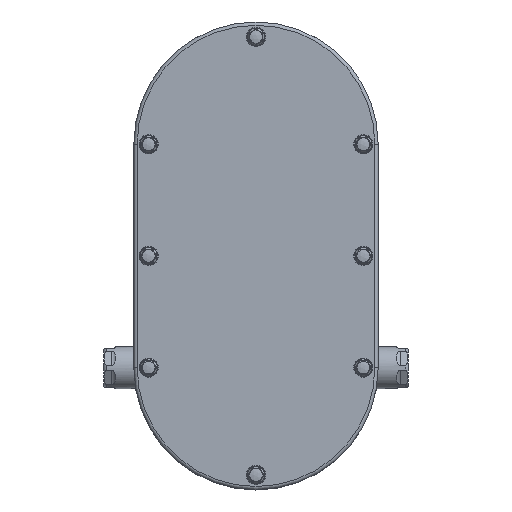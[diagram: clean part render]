
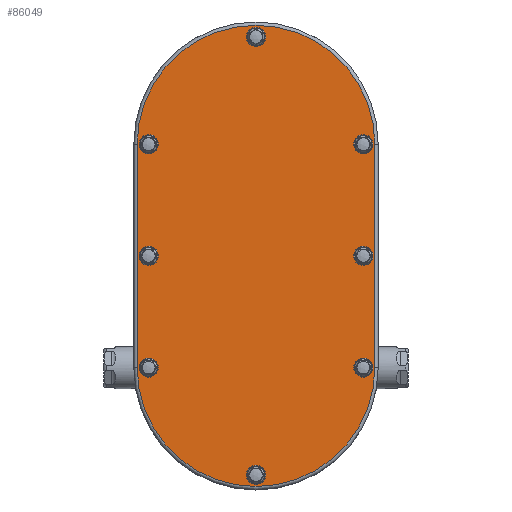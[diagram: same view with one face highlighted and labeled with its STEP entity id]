
A CAD part, top view. The second image highlights one B-rep face of the part: STEP entity #86049.
In plain terms, the highlighted planar face has unit normal (0, 0, 1).
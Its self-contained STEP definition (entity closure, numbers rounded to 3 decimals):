
#4073 = VERTEX_POINT ( 'NONE', #9928 ) ;
#4111 = ORIENTED_EDGE ( 'NONE', *, *, #41773, .T. ) ;
#5422 = EDGE_CURVE ( 'NONE', #13251, #13251, #45091, .T. ) ;
#7234 = AXIS2_PLACEMENT_3D ( 'NONE', #85095, #67662, #60545 ) ;
#8337 = CARTESIAN_POINT ( 'NONE',  ( -2.302, 0., 4.868 ) ) ;
#8520 = CARTESIAN_POINT ( 'NONE',  ( 0., 5.254, 4.868 ) ) ;
#8613 = CARTESIAN_POINT ( 'NONE',  ( -2.524, 2.627, 4.868 ) ) ;
#9616 = FACE_BOUND ( 'NONE', #83718, .T. ) ;
#9799 = CARTESIAN_POINT ( 'NONE',  ( 0., -2.524, 4.868 ) ) ;
#9928 = CARTESIAN_POINT ( 'NONE',  ( 2.795, 0., 4.868 ) ) ;
#10452 = EDGE_CURVE ( 'NONE', #71066, #71066, #70483, .T. ) ;
#11465 = EDGE_CURVE ( 'NONE', #78399, #52381, #20362, .T. ) ;
#12418 = CIRCLE ( 'NONE', #21065, 0.222 ) ;
#13251 = VERTEX_POINT ( 'NONE', #79772 ) ;
#13703 = ORIENTED_EDGE ( 'NONE', *, *, #106912, .T. ) ;
#13937 = LINE ( 'NONE', #23714, #102977 ) ;
#15300 = EDGE_CURVE ( 'NONE', #91731, #91731, #15693, .T. ) ;
#15693 = CIRCLE ( 'NONE', #24407, 0.222 ) ;
#16002 = CARTESIAN_POINT ( 'NONE',  ( -2.524, 5.254, 4.868 ) ) ;
#16173 = DIRECTION ( 'NONE',  ( 0., 0., -1. ) ) ;
#17544 = LINE ( 'NONE', #25176, #24482 ) ;
#18552 = ORIENTED_EDGE ( 'NONE', *, *, #103121, .F. ) ;
#20362 = CIRCLE ( 'NONE', #62156, 2.795 ) ;
#20452 = EDGE_CURVE ( 'NONE', #75373, #75373, #80667, .T. ) ;
#21053 = DIRECTION ( 'NONE',  ( -1., 0., 0. ) ) ;
#21065 = AXIS2_PLACEMENT_3D ( 'NONE', #29473, #79098, #44762 ) ;
#22141 = AXIS2_PLACEMENT_3D ( 'NONE', #85995, #34194, #21053 ) ;
#23099 = DIRECTION ( 'NONE',  ( 0., 0., -1. ) ) ;
#23452 = CARTESIAN_POINT ( 'NONE',  ( 2.524, 2.627, 4.868 ) ) ;
#23714 = CARTESIAN_POINT ( 'NONE',  ( 2.795, 5.254, 4.868 ) ) ;
#24407 = AXIS2_PLACEMENT_3D ( 'NONE', #74889, #56898, #81427 ) ;
#24482 = VECTOR ( 'NONE', #58450, 39.37 ) ;
#25176 = CARTESIAN_POINT ( 'NONE',  ( -2.795, 5.254, 4.868 ) ) ;
#25411 = VERTEX_POINT ( 'NONE', #66633 ) ;
#27053 = ORIENTED_EDGE ( 'NONE', *, *, #10452, .F. ) ;
#29084 = CARTESIAN_POINT ( 'NONE',  ( 2.746, 2.627, 4.868 ) ) ;
#29473 = CARTESIAN_POINT ( 'NONE',  ( 2.524, 5.254, 4.868 ) ) ;
#31282 = CARTESIAN_POINT ( 'NONE',  ( 2.524, 0., 4.868 ) ) ;
#31414 = EDGE_LOOP ( 'NONE', ( #44397, #70779, #4111, #55339 ) ) ;
#32882 = DIRECTION ( 'NONE',  ( 1., 0., 0. ) ) ;
#33932 = CARTESIAN_POINT ( 'NONE',  ( 0.222, 7.778, 4.868 ) ) ;
#34194 = DIRECTION ( 'NONE',  ( 0., 0., 1. ) ) ;
#39019 = DIRECTION ( 'NONE',  ( 0., 1., 0. ) ) ;
#39730 = DIRECTION ( 'NONE',  ( 1., 0., 0. ) ) ;
#39801 = DIRECTION ( 'NONE',  ( 0., 0., 1. ) ) ;
#40022 = EDGE_CURVE ( 'NONE', #4073, #78399, #13937, .T. ) ;
#41249 = FACE_BOUND ( 'NONE', #79982, .T. ) ;
#41773 = EDGE_CURVE ( 'NONE', #25411, #4073, #55213, .T. ) ;
#42880 = FACE_BOUND ( 'NONE', #51323, .T. ) ;
#44397 = ORIENTED_EDGE ( 'NONE', *, *, #11465, .T. ) ;
#44762 = DIRECTION ( 'NONE',  ( 1., 0., 0. ) ) ;
#44991 = CARTESIAN_POINT ( 'NONE',  ( 0.222, -2.524, 4.868 ) ) ;
#45091 = CIRCLE ( 'NONE', #50280, 0.222 ) ;
#47802 = AXIS2_PLACEMENT_3D ( 'NONE', #23452, #39801, #57808 ) ;
#48530 = CARTESIAN_POINT ( 'NONE',  ( 0., 5.254, 4.868 ) ) ;
#49289 = ORIENTED_EDGE ( 'NONE', *, *, #67377, .T. ) ;
#49429 = DIRECTION ( 'NONE',  ( -1., 0., 0. ) ) ;
#50128 = EDGE_LOOP ( 'NONE', ( #85537 ) ) ;
#50280 = AXIS2_PLACEMENT_3D ( 'NONE', #8613, #66444, #39730 ) ;
#51323 = EDGE_LOOP ( 'NONE', ( #58048 ) ) ;
#52381 = VERTEX_POINT ( 'NONE', #83681 ) ;
#52475 = CARTESIAN_POINT ( 'NONE',  ( 2.795, 5.254, 4.868 ) ) ;
#54354 = CIRCLE ( 'NONE', #85663, 0.222 ) ;
#55213 = CIRCLE ( 'NONE', #22141, 2.795 ) ;
#55339 = ORIENTED_EDGE ( 'NONE', *, *, #40022, .T. ) ;
#56898 = DIRECTION ( 'NONE',  ( 0., 0., -1. ) ) ;
#57808 = DIRECTION ( 'NONE',  ( 1., 0., 0. ) ) ;
#58048 = ORIENTED_EDGE ( 'NONE', *, *, #20452, .T. ) ;
#58450 = DIRECTION ( 'NONE',  ( 0., -1., 0. ) ) ;
#59752 = AXIS2_PLACEMENT_3D ( 'NONE', #31282, #23099, #32882 ) ;
#60545 = DIRECTION ( 'NONE',  ( 1., 0., 0. ) ) ;
#61857 = EDGE_LOOP ( 'NONE', ( #95541 ) ) ;
#62156 = AXIS2_PLACEMENT_3D ( 'NONE', #48530, #106933, #90562 ) ;
#65803 = FACE_BOUND ( 'NONE', #105383, .T. ) ;
#66444 = DIRECTION ( 'NONE',  ( 0., 0., -1. ) ) ;
#66633 = CARTESIAN_POINT ( 'NONE',  ( -2.795, 0., 4.868 ) ) ;
#67377 = EDGE_CURVE ( 'NONE', #76515, #76515, #54354, .T. ) ;
#67662 = DIRECTION ( 'NONE',  ( 0., 0., 1. ) ) ;
#67989 = FACE_BOUND ( 'NONE', #50128, .T. ) ;
#68713 = DIRECTION ( 'NONE',  ( 0., 0., 1. ) ) ;
#68802 = EDGE_CURVE ( 'NONE', #68876, #68876, #97877, .T. ) ;
#68876 = VERTEX_POINT ( 'NONE', #8337 ) ;
#70483 = CIRCLE ( 'NONE', #47802, 0.222 ) ;
#70779 = ORIENTED_EDGE ( 'NONE', *, *, #106843, .T. ) ;
#71066 = VERTEX_POINT ( 'NONE', #29084 ) ;
#71389 = AXIS2_PLACEMENT_3D ( 'NONE', #8520, #16173, #49429 ) ;
#73284 = DIRECTION ( 'NONE',  ( 1., 0., 0. ) ) ;
#74889 = CARTESIAN_POINT ( 'NONE',  ( 0., 7.778, 4.868 ) ) ;
#75373 = VERTEX_POINT ( 'NONE', #98833 ) ;
#76515 = VERTEX_POINT ( 'NONE', #84151 ) ;
#77426 = DIRECTION ( 'NONE',  ( 1., 0., 0. ) ) ;
#78399 = VERTEX_POINT ( 'NONE', #52475 ) ;
#79098 = DIRECTION ( 'NONE',  ( 0., 0., -1. ) ) ;
#79772 = CARTESIAN_POINT ( 'NONE',  ( -2.302, 2.627, 4.868 ) ) ;
#79853 = VERTEX_POINT ( 'NONE', #96258 ) ;
#79982 = EDGE_LOOP ( 'NONE', ( #18552 ) ) ;
#80667 = CIRCLE ( 'NONE', #59752, 0.222 ) ;
#81427 = DIRECTION ( 'NONE',  ( 1., 0., 0. ) ) ;
#82884 = EDGE_LOOP ( 'NONE', ( #27053 ) ) ;
#83232 = FACE_BOUND ( 'NONE', #92637, .T. ) ;
#83681 = CARTESIAN_POINT ( 'NONE',  ( -2.795, 5.254, 4.868 ) ) ;
#83718 = EDGE_LOOP ( 'NONE', ( #49289 ) ) ;
#84151 = CARTESIAN_POINT ( 'NONE',  ( -2.302, 5.254, 4.868 ) ) ;
#84330 = FACE_BOUND ( 'NONE', #61857, .T. ) ;
#85095 = CARTESIAN_POINT ( 'NONE',  ( -2.524, 0., 4.868 ) ) ;
#85537 = ORIENTED_EDGE ( 'NONE', *, *, #5422, .T. ) ;
#85663 = AXIS2_PLACEMENT_3D ( 'NONE', #16002, #90173, #73284 ) ;
#85995 = CARTESIAN_POINT ( 'NONE',  ( 0., 0., 4.868 ) ) ;
#86049 = ADVANCED_FACE ( 'NONE', ( #83232, #67989, #9616, #42880, #65803, #93070, #41249, #84330, #91970 ), #100164, .F. ) ;
#90114 = AXIS2_PLACEMENT_3D ( 'NONE', #9799, #68713, #77426 ) ;
#90173 = DIRECTION ( 'NONE',  ( 0., 0., -1. ) ) ;
#90562 = DIRECTION ( 'NONE',  ( -1., 0., 0. ) ) ;
#91731 = VERTEX_POINT ( 'NONE', #33932 ) ;
#91970 = FACE_OUTER_BOUND ( 'NONE', #31414, .T. ) ;
#92637 = EDGE_LOOP ( 'NONE', ( #13703 ) ) ;
#93070 = FACE_BOUND ( 'NONE', #82884, .T. ) ;
#95541 = ORIENTED_EDGE ( 'NONE', *, *, #68802, .F. ) ;
#96258 = CARTESIAN_POINT ( 'NONE',  ( 2.746, 5.254, 4.868 ) ) ;
#97877 = CIRCLE ( 'NONE', #7234, 0.222 ) ;
#98828 = CIRCLE ( 'NONE', #90114, 0.222 ) ;
#98833 = CARTESIAN_POINT ( 'NONE',  ( 2.746, 0., 4.868 ) ) ;
#100164 = PLANE ( 'NONE',  #71389 ) ;
#102977 = VECTOR ( 'NONE', #39019, 39.37 ) ;
#103121 = EDGE_CURVE ( 'NONE', #105526, #105526, #98828, .T. ) ;
#105050 = ORIENTED_EDGE ( 'NONE', *, *, #15300, .T. ) ;
#105383 = EDGE_LOOP ( 'NONE', ( #105050 ) ) ;
#105526 = VERTEX_POINT ( 'NONE', #44991 ) ;
#106843 = EDGE_CURVE ( 'NONE', #52381, #25411, #17544, .T. ) ;
#106912 = EDGE_CURVE ( 'NONE', #79853, #79853, #12418, .T. ) ;
#106933 = DIRECTION ( 'NONE',  ( 0., 0., 1. ) ) ;
